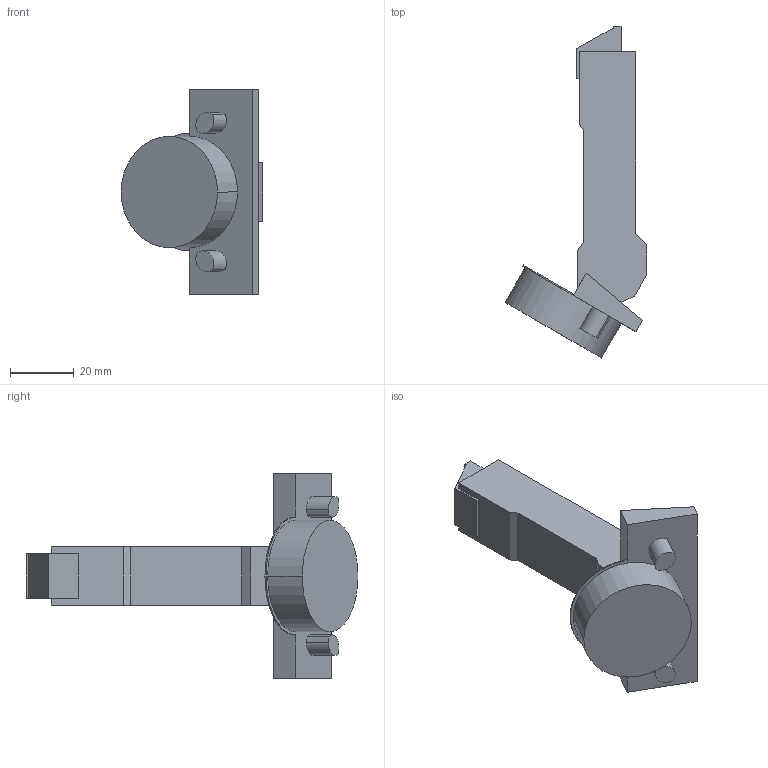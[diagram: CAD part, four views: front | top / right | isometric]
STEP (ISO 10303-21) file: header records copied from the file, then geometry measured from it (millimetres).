
FILE_DESCRIPTION (( 'STEP AP214' ), '1' );
FILE_NAME ('Scharnier TS Impresso 110°_+30° GB_BB, aufliegend, KMPL-37, H00.step', '2018-09-19T13:18:15', ( '' ), ( '' ), 'SwSTEP 2.0', 'SolidWorks 2017', '' );
FILE_SCHEMA (( 'AUTOMOTIVE_DESIGN' ));
Length unit declared in the file: millimetre
Products named in the file (1): Scharnier TS Impresso 110°_+30° GB_BB, aufliegend, KMPL-37, H00
Bounding box: 44.59 x 104.36 x 64.5 mm (x, y, z)
Volume: 46937.4 mm3; surface area: 12755.2 mm2
Topology: 1 solids, 1 shells, 52 faces, 132 edges, 88 vertices
Faces by surface type: plane 37, cylinder 15
Entity records: 1600 total; most frequent: CARTESIAN_POINT 273, DIRECTION 268, ORIENTED_EDGE 264, EDGE_CURVE 132, VECTOR 102, LINE 102, VERTEX_POINT 88, AXIS2_PLACEMENT_3D 83
